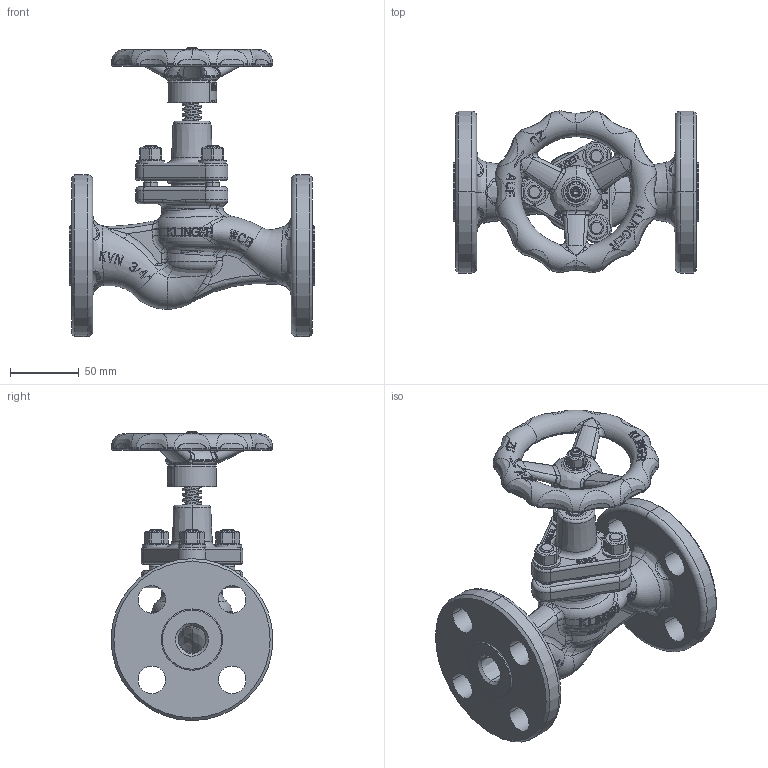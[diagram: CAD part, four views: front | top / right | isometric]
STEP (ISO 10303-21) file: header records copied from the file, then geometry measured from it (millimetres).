
FILE_DESCRIPTION((''),'2;1');
FILE_NAME('KVNFL-34S-----C300PGG_SW0001','2026-09-28T11:28:30',('jeitlers'),('KLINGER'),'CREO PARAMETRIC BY PTC INC, 2025443','CREO PARAMETRIC BY PTC INC, 2025443','');
FILE_SCHEMA(('CONFIG_CONTROL_DESIGN'));
Products named in the file (1): KVNFL-34S-----C300PGG_SW0001
Bounding box: 178 x 117.5 x 209.85 mm (x, y, z)
Volume: 637118.6 mm3; surface area: 162194.5 mm2
Topology: 3 solids, 10 shells, 2921 faces, 7774 edges, 4940 vertices
Faces by surface type: plane 1601, bspline 597, cylinder 371, torus 251, cone 101
Entity records: 173304 total; most frequent: CARTESIAN_POINT 107453, ORIENTED_EDGE 15540, DIRECTION 11012, EDGE_CURVE 7770, VERTEX_POINT 4940, AXIS2_PLACEMENT_3D 3864, VECTOR 3284, LINE 3284
